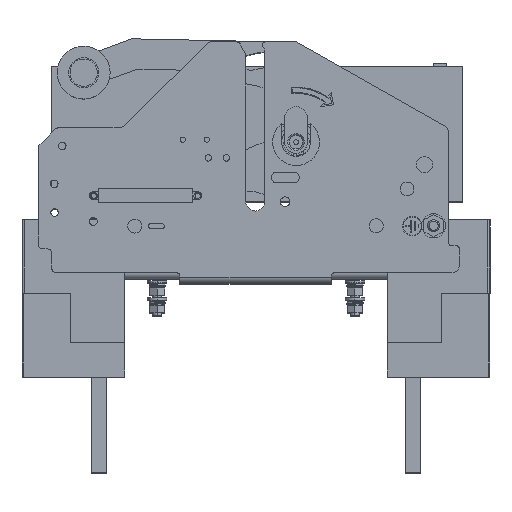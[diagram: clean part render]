
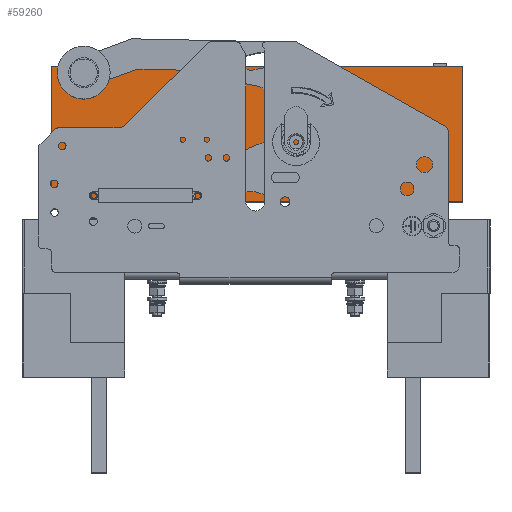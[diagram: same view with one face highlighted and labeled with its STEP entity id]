
A CAD part, top view. The second image highlights one B-rep face of the part: STEP entity #59260.
In plain terms, the highlighted planar face has unit normal (0, 0, 1).
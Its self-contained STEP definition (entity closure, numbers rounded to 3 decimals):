
#2909 = CARTESIAN_POINT ( 'NONE',  ( 1636.441, 7.5, 202.2 ) ) ;
#5670 = VECTOR ( 'NONE', #63722, 1000. ) ;
#7062 = ORIENTED_EDGE ( 'NONE', *, *, #32754, .T. ) ;
#8462 = LINE ( 'NONE', #27438, #49564 ) ;
#17097 = VECTOR ( 'NONE', #64525, 1000. ) ;
#21121 = EDGE_CURVE ( 'NONE', #80585, #63398, #8462, .T. ) ;
#24020 = CARTESIAN_POINT ( 'NONE',  ( 1636.441, -100.876, 202.2 ) ) ;
#24032 = PLANE ( 'NONE',  #60505 ) ;
#24902 = FACE_OUTER_BOUND ( 'NONE', #81930, .T. ) ;
#27438 = CARTESIAN_POINT ( 'NONE',  ( 23.25, -100.876, 202.2 ) ) ;
#31488 = CARTESIAN_POINT ( 'NONE',  ( 1364.441, 7.5, 202.2 ) ) ;
#32754 = EDGE_CURVE ( 'NONE', #61978, #80585, #37691, .T. ) ;
#34143 = ORIENTED_EDGE ( 'NONE', *, *, #34256, .T. ) ;
#34256 = EDGE_CURVE ( 'NONE', #38360, #61978, #52015, .T. ) ;
#35374 = DIRECTION ( 'NONE',  ( 1., 0., 0. ) ) ;
#36431 = LINE ( 'NONE', #2909, #5670 ) ;
#37691 = LINE ( 'NONE', #31488, #17097 ) ;
#38360 = VERTEX_POINT ( 'NONE', #52089 ) ;
#38606 = CARTESIAN_POINT ( 'NONE',  ( 23.25, 7.5, 202.2 ) ) ;
#43563 = CARTESIAN_POINT ( 'NONE',  ( 1364.441, -100.876, 202.2 ) ) ;
#44802 = DIRECTION ( 'NONE',  ( 0., 0., 1. ) ) ;
#49564 = VECTOR ( 'NONE', #35374, 1000. ) ;
#52015 = LINE ( 'NONE', #78887, #55434 ) ;
#52089 = CARTESIAN_POINT ( 'NONE',  ( 1636.441, -11.376, 202.2 ) ) ;
#54454 = EDGE_CURVE ( 'NONE', #63398, #38360, #36431, .T. ) ;
#55434 = VECTOR ( 'NONE', #71826, 1000. ) ;
#56761 = ORIENTED_EDGE ( 'NONE', *, *, #54454, .T. ) ;
#59260 = ADVANCED_FACE ( 'NONE', ( #24902 ), #24032, .T. ) ;
#60505 = AXIS2_PLACEMENT_3D ( 'NONE', #38606, #44802, #72066 ) ;
#61978 = VERTEX_POINT ( 'NONE', #62662 ) ;
#62662 = CARTESIAN_POINT ( 'NONE',  ( 1364.441, -11.376, 202.2 ) ) ;
#62788 = ORIENTED_EDGE ( 'NONE', *, *, #21121, .T. ) ;
#63398 = VERTEX_POINT ( 'NONE', #24020 ) ;
#63722 = DIRECTION ( 'NONE',  ( 0., 1., 0. ) ) ;
#64525 = DIRECTION ( 'NONE',  ( 0., -1., 0. ) ) ;
#71826 = DIRECTION ( 'NONE',  ( -1., 0., 0. ) ) ;
#72066 = DIRECTION ( 'NONE',  ( 1., 0., 0. ) ) ;
#78887 = CARTESIAN_POINT ( 'NONE',  ( 23.25, -11.376, 202.2 ) ) ;
#80585 = VERTEX_POINT ( 'NONE', #43563 ) ;
#81930 = EDGE_LOOP ( 'NONE', ( #56761, #34143, #7062, #62788 ) ) ;
